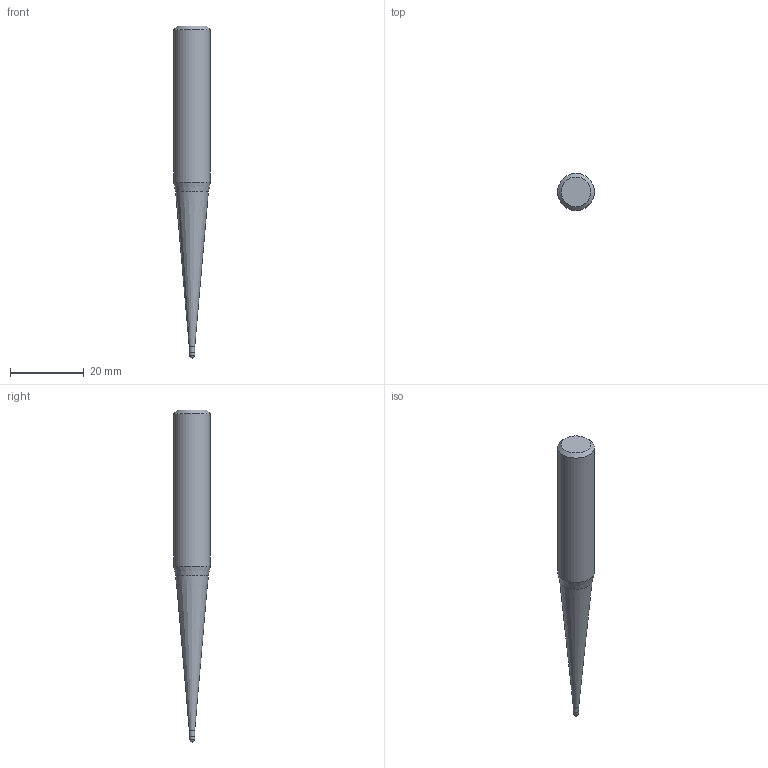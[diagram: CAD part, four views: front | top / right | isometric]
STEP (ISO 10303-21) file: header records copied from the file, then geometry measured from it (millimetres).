
FILE_DESCRIPTION((''),'2;1');
FILE_NAME('C:\Users\nsx150\AppData\Local\Temp\Mastercam 2021\SNAKH10GOD\TEMP.step','2021-10-21T13:33:04',(''),(''),'STEP Write','Mastercam 2021 ... CNC Software, Inc.','');
FILE_SCHEMA(('AUTOMOTIVE_DESIGN'));
Length unit declared in the file: millimetre
Products named in the file (1): None
Bounding box: 10 x 10 x 90 mm (x, y, z)
Volume: 4530.9 mm3; surface area: 2171.5 mm2
Topology: 2 solids, 2 shells, 10 faces, 16 edges, 9 vertices
Faces by surface type: plane 3, cylinder 3, cone 3, sphere 1
Full cylindrical faces by diameter (mm): 1.485 x1, 1.5 x1, 10 x1
Entity records: 232 total; most frequent: DIRECTION 40, CARTESIAN_POINT 28, AXIS2_PLACEMENT_3D 20, ORIENTED_EDGE 16, EDGE_LOOP 16, STYLED_ITEM 13, ADVANCED_FACE 10, FACE_BOUND 9
